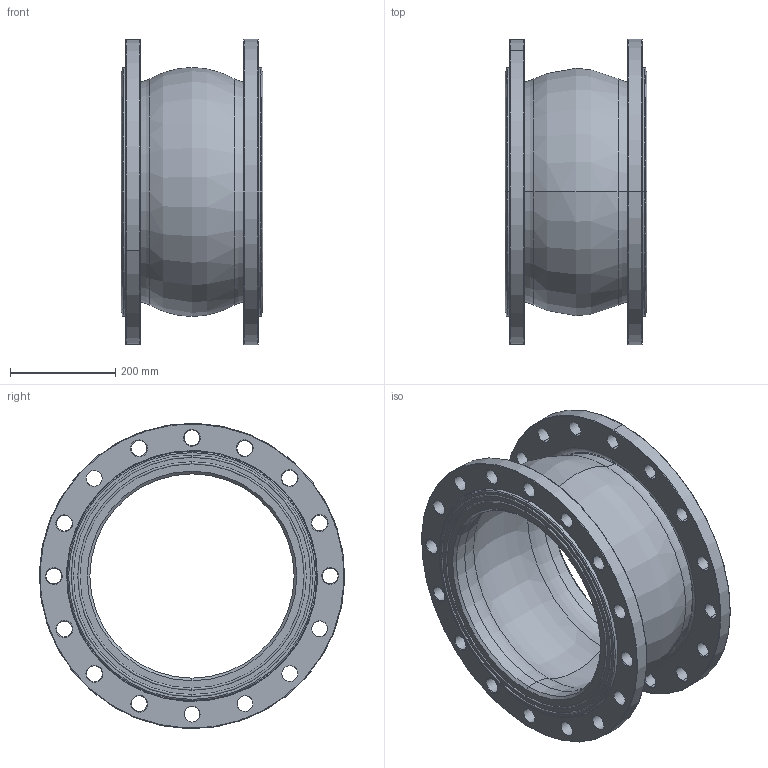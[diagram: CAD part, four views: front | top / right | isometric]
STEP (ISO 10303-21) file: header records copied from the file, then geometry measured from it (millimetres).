
FILE_DESCRIPTION (( 'STEP AP203' ), '1' );
FILE_NAME ('DN400 PN16.STEP', '2026-07-24T08:05:12', ( 'Windows 蚚誧' ), ( '' ), 'SwSTEP 2.0', 'SolidWorks 2018', '' );
FILE_SCHEMA (( 'CONFIG_CONTROL_DESIGN' ));
Length unit declared in the file: millimetre
Products named in the file (3): DN400 EN1092 PN16; DN400 PN16; DN400
Assembly tree (3 placements, depth 2):
  DN400 PN16
    DN400
    DN400 EN1092 PN16  x2
Bounding box: 268.98 x 580 x 580 mm (x, y, z)
Volume: 12084396 mm3; surface area: 1714670.5 mm2
Topology: 3 solids, 3 shells, 268 faces, 600 edges, 348 vertices
Faces by surface type: torus 152, cylinder 92, plane 16, cone 8
Entity records: 5037 total; most frequent: DIRECTION 1012, CARTESIAN_POINT 746, ORIENTED_EDGE 728, AXIS2_PLACEMENT_3D 476, EDGE_CURVE 364, CIRCLE 304, VERTEX_POINT 210, EDGE_LOOP 210
